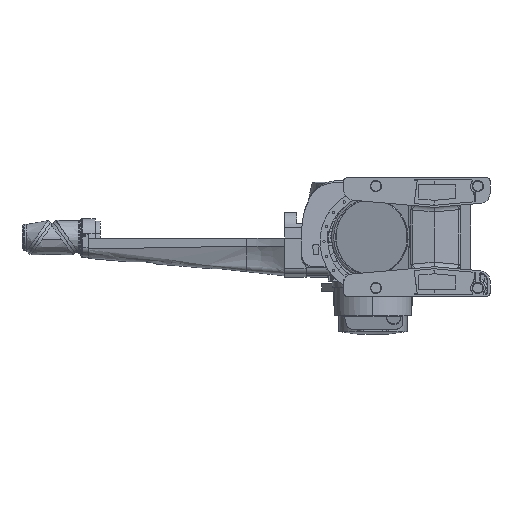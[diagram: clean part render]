
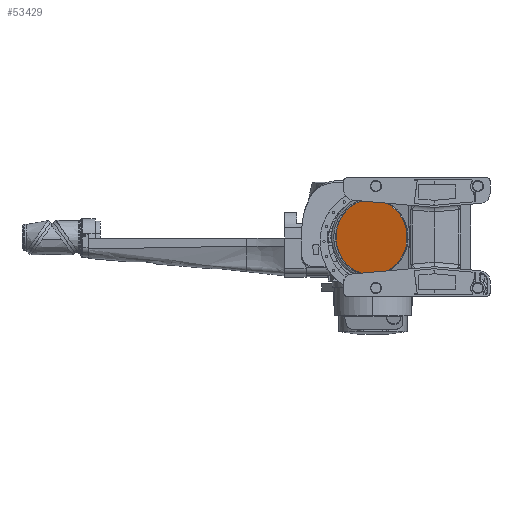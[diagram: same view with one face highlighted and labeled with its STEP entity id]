
A CAD part, front view. The second image highlights one B-rep face of the part: STEP entity #53429.
In plain terms, the highlighted planar face has unit normal (-0.319, -0.948, 0) as drawn and (0, -0.948, -0.319) by its records, which use the part's own axes.
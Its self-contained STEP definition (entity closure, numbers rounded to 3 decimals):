
#3684 = CARTESIAN_POINT ( 'NONE',  ( 187.028, 65.696, 792.324 ) ) ;
#6749 = EDGE_CURVE ( 'NONE', #10838, #43214, #66639, .T. ) ;
#9295 = CARTESIAN_POINT ( 'NONE',  ( 187.028, 65.696, 792.324 ) ) ;
#10838 = VERTEX_POINT ( 'NONE', #59348 ) ;
#17417 = DIRECTION ( 'NONE',  ( -0.695, 0.23, -0.682 ) ) ;
#22549 = EDGE_CURVE ( 'NONE', #43214, #10838, #73228, .T. ) ;
#24658 = AXIS2_PLACEMENT_3D ( 'NONE', #3684, #48586, #111061 ) ;
#42660 = DIRECTION ( 'NONE',  ( 0., 0.948, 0.319 ) ) ;
#43214 = VERTEX_POINT ( 'NONE', #84735 ) ;
#45698 = DIRECTION ( 'NONE',  ( 0., -0.948, -0.319 ) ) ;
#48586 = DIRECTION ( 'NONE',  ( 0., -0.948, -0.319 ) ) ;
#51925 = PLANE ( 'NONE',  #74898 ) ;
#52691 = CARTESIAN_POINT ( 'NONE',  ( 187.028, 65.696, 792.324 ) ) ;
#53040 = AXIS2_PLACEMENT_3D ( 'NONE', #9295, #45698, #71287 ) ;
#53429 = ADVANCED_FACE ( 'NONE', ( #55665 ), #51925, .F. ) ;
#55665 = FACE_OUTER_BOUND ( 'NONE', #66440, .T. ) ;
#59348 = CARTESIAN_POINT ( 'NONE',  ( 59.211, 107.95, 666.891 ) ) ;
#66440 = EDGE_LOOP ( 'NONE', ( #105968, #68366 ) ) ;
#66639 = CIRCLE ( 'NONE', #24658, 184. ) ;
#68366 = ORIENTED_EDGE ( 'NONE', *, *, #22549, .T. ) ;
#71287 = DIRECTION ( 'NONE',  ( -0.695, 0.23, -0.682 ) ) ;
#73228 = CIRCLE ( 'NONE', #53040, 184. ) ;
#74898 = AXIS2_PLACEMENT_3D ( 'NONE', #52691, #42660, #17417 ) ;
#84735 = CARTESIAN_POINT ( 'NONE',  ( 314.845, 23.443, 917.757 ) ) ;
#105968 = ORIENTED_EDGE ( 'NONE', *, *, #6749, .T. ) ;
#111061 = DIRECTION ( 'NONE',  ( -0.695, 0.23, -0.682 ) ) ;
